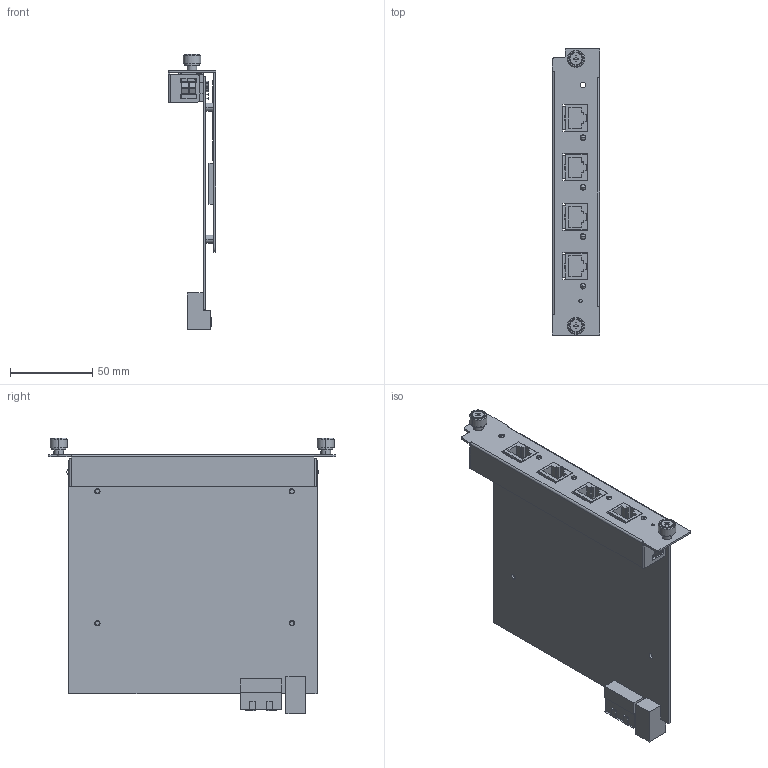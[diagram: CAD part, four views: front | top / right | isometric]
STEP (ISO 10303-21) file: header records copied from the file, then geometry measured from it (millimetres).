
FILE_DESCRIPTION((''),'2;1');
FILE_NAME('IM-G7000-4GTX','2011-07-27T',('Vincent_Huang'),(''),'PRO/ENGINEER BY PARAMETRIC TECHNOLOGY CORPORATION, 2004320','PRO/ENGINEER BY PARAMETRIC TECHNOLOGY CORPORATION, 2004320','');
FILE_SCHEMA(('CONFIG_CONTROL_DESIGN'));
Length unit declared in the file: millimetre
Products named in the file (1): IM-G7000-4GTX
Bounding box: 28.8 x 174.7 x 167.1 mm (x, y, z)
Volume: 83623.9 mm3; surface area: 98098.9 mm2
Topology: 1 solids, 2 shells, 844 faces, 2428 edges, 1674 vertices
Faces by surface type: plane 548, cylinder 284, bspline 8, cone 4
Entity records: 28530 total; most frequent: CARTESIAN_POINT 5723, DIRECTION 4642, ORIENTED_EDGE 4620, EDGE_CURVE 2428, VECTOR 1728, LINE 1728, VERTEX_POINT 1674, AXIS2_PLACEMENT_3D 1457
